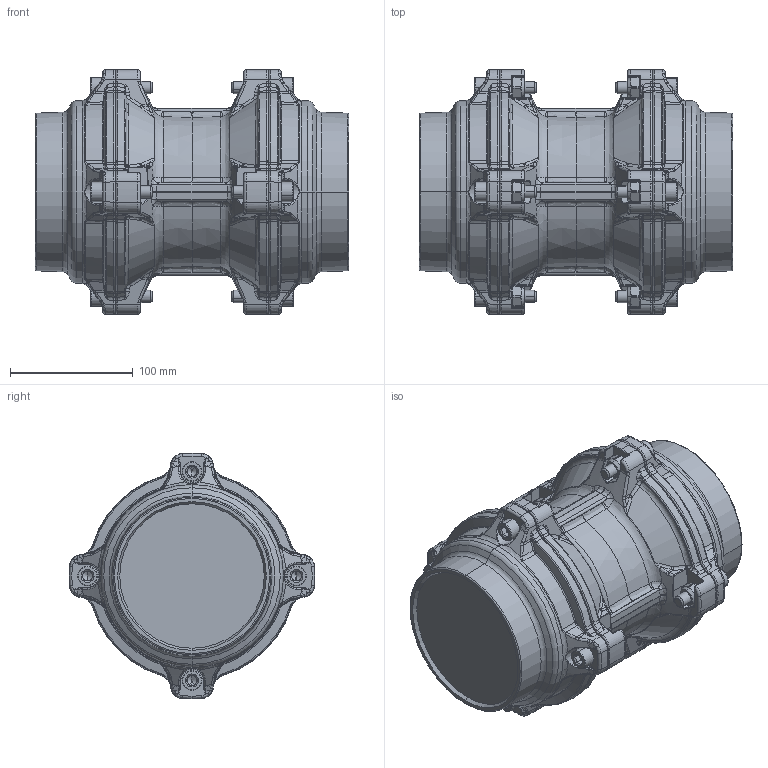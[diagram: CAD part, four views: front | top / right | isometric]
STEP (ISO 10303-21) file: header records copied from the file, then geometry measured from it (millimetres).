
FILE_DESCRIPTION (( 'STEP AP214' ), '1' );
FILE_NAME ('9004000008.step', '2012-10-18T17:01:18', ( '' ), ( '' ), 'SwSTEP 2.0', 'SolidWorks 2012', '' );
FILE_SCHEMA (( 'AUTOMOTIVE_DESIGN' ));
Length unit declared in the file: millimetre
Products named in the file (1): 9004000008
Bounding box: 255 x 199.95 x 199.99 mm (x, y, z)
Volume: 4205610.7 mm3; surface area: 224679.1 mm2
Topology: 1 solids, 11 shells, 2914 faces, 6909 edges, 4006 vertices
Faces by surface type: bspline 1228, plane 490, cylinder 440, cone 438, torus 262, sphere 56
Entity records: 140083 total; most frequent: CARTESIAN_POINT 49953, ORIENTED_EDGE 13690, DIRECTION 10336, EDGE_CURVE 6845, AXIS2_PLACEMENT_3D 4497, VERTEX_POINT 4006, EDGE_LOOP 3001, FACE_OUTER_BOUND 2914
